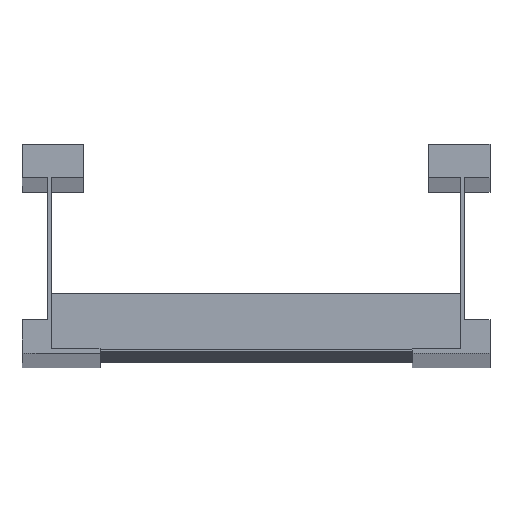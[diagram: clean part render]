
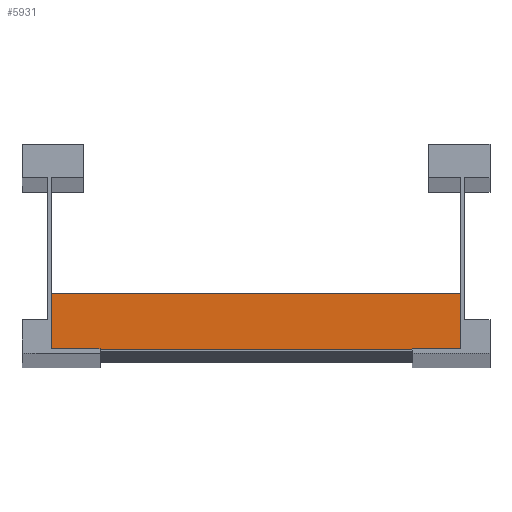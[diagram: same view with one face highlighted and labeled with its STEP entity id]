
A CAD part, top view. The second image highlights one B-rep face of the part: STEP entity #5931.
In plain terms, the highlighted planar face has unit normal (0, 0, 1).
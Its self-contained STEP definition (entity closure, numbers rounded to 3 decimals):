
#67 = ORIENTED_EDGE ( 'NONE', *, *, #5657, .F. ) ;
#130 = EDGE_CURVE ( 'NONE', #1826, #4715, #139, .T. ) ;
#139 = LINE ( 'NONE', #4914, #2538 ) ;
#279 = VERTEX_POINT ( 'NONE', #1171 ) ;
#301 = CARTESIAN_POINT ( 'NONE',  ( 73.5, 0., 20.25 ) ) ;
#310 = CARTESIAN_POINT ( 'NONE',  ( -73.5, 20., 20.25 ) ) ;
#693 = CARTESIAN_POINT ( 'NONE',  ( -73.5, 20., 20.25 ) ) ;
#1171 = CARTESIAN_POINT ( 'NONE',  ( 73.5, 0., 20.25 ) ) ;
#1387 = ORIENTED_EDGE ( 'NONE', *, *, #6122, .F. ) ;
#1709 = LINE ( 'NONE', #301, #5449 ) ;
#1750 = DIRECTION ( 'NONE',  ( 0., -1., 0. ) ) ;
#1826 = VERTEX_POINT ( 'NONE', #3178 ) ;
#2018 = DIRECTION ( 'NONE',  ( 0., 0., -1. ) ) ;
#2183 = DIRECTION ( 'NONE',  ( -1., 0., 0. ) ) ;
#2366 = EDGE_CURVE ( 'NONE', #4715, #4729, #4607, .T. ) ;
#2538 = VECTOR ( 'NONE', #5910, 1000. ) ;
#2769 = ORIENTED_EDGE ( 'NONE', *, *, #130, .T. ) ;
#2861 = VECTOR ( 'NONE', #1750, 1000. ) ;
#2896 = DIRECTION ( 'NONE',  ( 0., 1., 0. ) ) ;
#2922 = FACE_OUTER_BOUND ( 'NONE', #4681, .T. ) ;
#2996 = ORIENTED_EDGE ( 'NONE', *, *, #2366, .T. ) ;
#3178 = CARTESIAN_POINT ( 'NONE',  ( 73.5, 20., 20.25 ) ) ;
#4246 = DIRECTION ( 'NONE',  ( 0., -1., 0. ) ) ;
#4368 = CARTESIAN_POINT ( 'NONE',  ( 73.5, 20., 20.25 ) ) ;
#4607 = LINE ( 'NONE', #310, #2861 ) ;
#4681 = EDGE_LOOP ( 'NONE', ( #2996, #67, #1387, #2769 ) ) ;
#4715 = VERTEX_POINT ( 'NONE', #693 ) ;
#4729 = VERTEX_POINT ( 'NONE', #4958 ) ;
#4837 = LINE ( 'NONE', #4368, #6069 ) ;
#4914 = CARTESIAN_POINT ( 'NONE',  ( 73.5, 20., 20.25 ) ) ;
#4958 = CARTESIAN_POINT ( 'NONE',  ( -73.5, 0., 20.25 ) ) ;
#5335 = PLANE ( 'NONE',  #5859 ) ;
#5449 = VECTOR ( 'NONE', #2183, 1000. ) ;
#5657 = EDGE_CURVE ( 'NONE', #279, #4729, #1709, .T. ) ;
#5859 = AXIS2_PLACEMENT_3D ( 'NONE', #5906, #2018, #2896 ) ;
#5906 = CARTESIAN_POINT ( 'NONE',  ( 73.5, 20., 20.25 ) ) ;
#5910 = DIRECTION ( 'NONE',  ( -1., 0., 0. ) ) ;
#5931 = ADVANCED_FACE ( 'NONE', ( #2922 ), #5335, .F. ) ;
#6069 = VECTOR ( 'NONE', #4246, 1000. ) ;
#6122 = EDGE_CURVE ( 'NONE', #1826, #279, #4837, .T. ) ;
